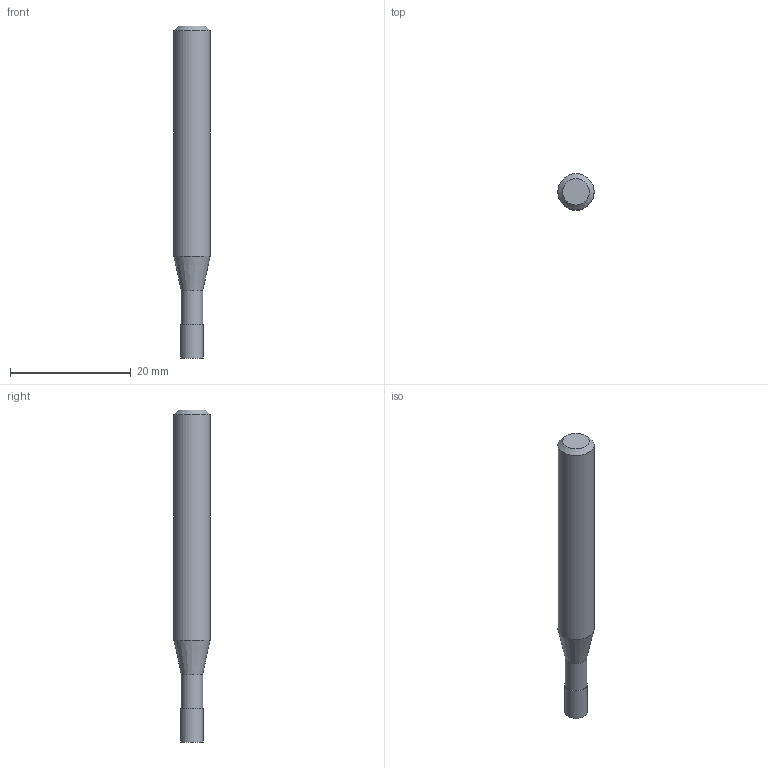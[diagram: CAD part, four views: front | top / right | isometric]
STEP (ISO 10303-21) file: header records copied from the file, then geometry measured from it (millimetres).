
FILE_DESCRIPTION((''),'2;1');
FILE_NAME('C:\Users\nsx150\AppData\Local\Temp\Mastercam 2021\EUJSUNXURU\TEMP.step','2021-04-22T10:28:11',(''),(''),'STEP Write','Mastercam 2021 ... CNC Software, Inc.','');
FILE_SCHEMA(('AUTOMOTIVE_DESIGN'));
Length unit declared in the file: millimetre
Products named in the file (1): None
Bounding box: 6 x 6 x 55 mm (x, y, z)
Volume: 1292.9 mm3; surface area: 983.7 mm2
Topology: 2 solids, 2 shells, 9 faces, 12 edges, 7 vertices
Faces by surface type: plane 4, cylinder 3, cone 2
Full cylindrical faces by diameter (mm): 3.55 x1, 3.7 x1, 6 x1
Entity records: 211 total; most frequent: DIRECTION 36, CARTESIAN_POINT 25, AXIS2_PLACEMENT_3D 18, ORIENTED_EDGE 14, EDGE_LOOP 14, STYLED_ITEM 12, ADVANCED_FACE 9, FACE_BOUND 8
